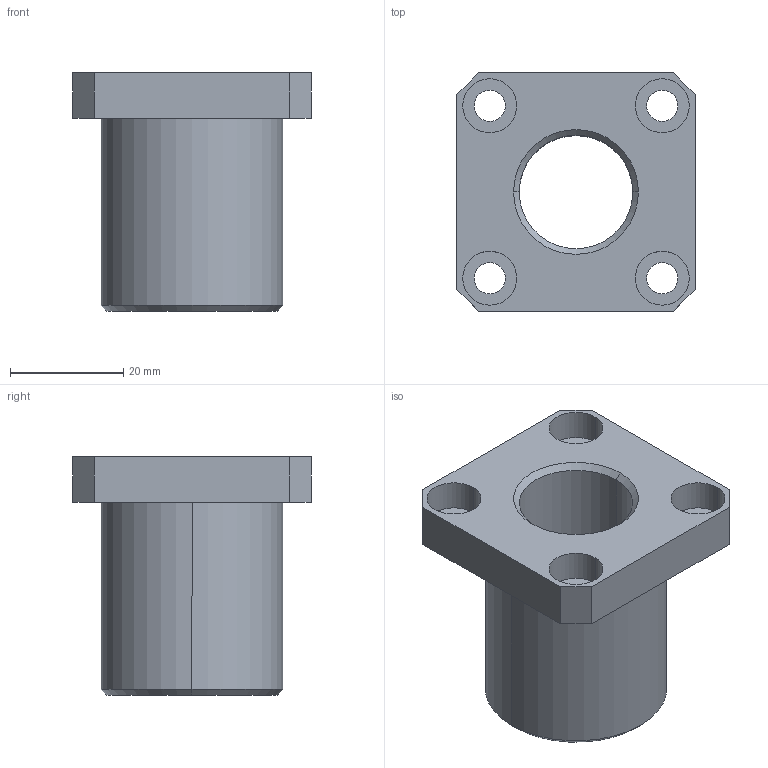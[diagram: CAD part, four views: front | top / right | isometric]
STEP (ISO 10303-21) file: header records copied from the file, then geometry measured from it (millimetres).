
FILE_DESCRIPTION (( 'STEP AP214' ), '1' );
FILE_NAME ('2.7050 Lineaarilaakeri LMK20UU.STEP', '2024-06-24T12:09:10', ( '' ), ( '' ), 'SwSTEP 2.0', 'SolidWorks 2024', '' );
FILE_SCHEMA (( 'AUTOMOTIVE_DESIGN' ));
Length unit declared in the file: millimetre
Products named in the file (1): 2.7050 Lineaarilaakeri LMK20UU
Bounding box: 42 x 42 x 42 mm (x, y, z)
Volume: 26168.9 mm3; surface area: 10709.5 mm2
Topology: 1 solids, 1 shells, 39 faces, 92 edges, 60 vertices
Faces by surface type: cylinder 20, plane 15, cone 4
Entity records: 1181 total; most frequent: DIRECTION 216, CARTESIAN_POINT 192, ORIENTED_EDGE 184, EDGE_CURVE 92, AXIS2_PLACEMENT_3D 84, VERTEX_POINT 60, EDGE_LOOP 54, LINE 48
